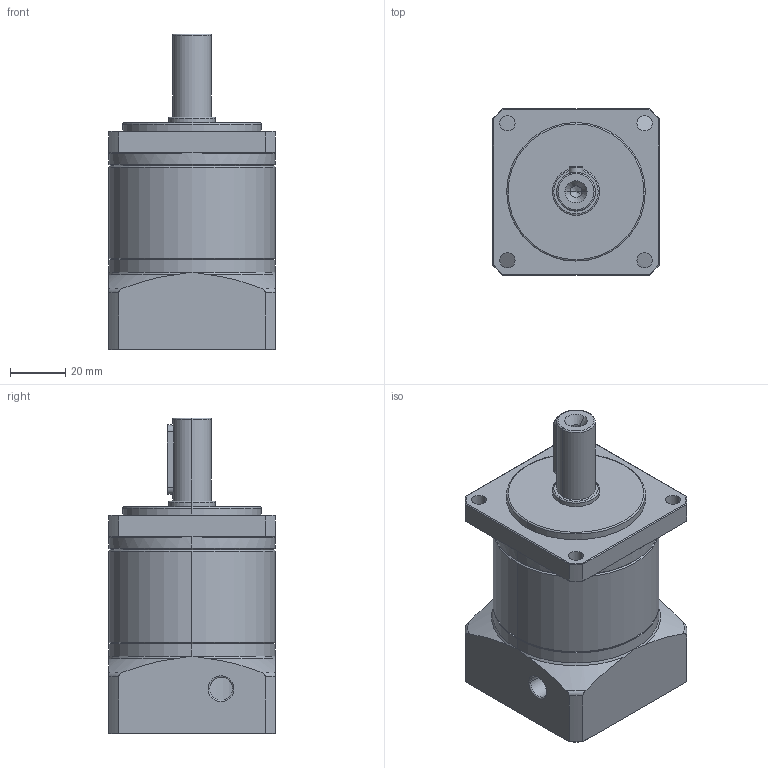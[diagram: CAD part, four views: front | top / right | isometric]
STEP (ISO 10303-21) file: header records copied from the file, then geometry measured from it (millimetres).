
FILE_DESCRIPTION (( 'STEP AP214' ), '1' );
FILE_NAME ('6.0004 pf60-10-14x30-50-70m4.STEP', '2026-02-12T13:53:26', ( '' ), ( '' ), 'SwSTEP 2.0', 'SolidWorks 2025', '' );
FILE_SCHEMA (( 'AUTOMOTIVE_DESIGN' ));
Length unit declared in the file: millimetre
Products named in the file (1): 6.0004 pf60-10-14x30-50-70m4
Bounding box: 60 x 60 x 114 mm (x, y, z)
Volume: 224823.4 mm3; surface area: 36123.7 mm2
Topology: 2 solids, 2 shells, 214 faces, 497 edges, 291 vertices
Faces by surface type: cylinder 69, plane 61, cone 57, torus 27
Entity records: 9710 total; most frequent: CARTESIAN_POINT 2481, DIRECTION 1066, ORIENTED_EDGE 970, EDGE_CURVE 485, AXIS2_PLACEMENT_3D 440, VERTEX_POINT 291, EDGE_LOOP 246, CIRCLE 225
